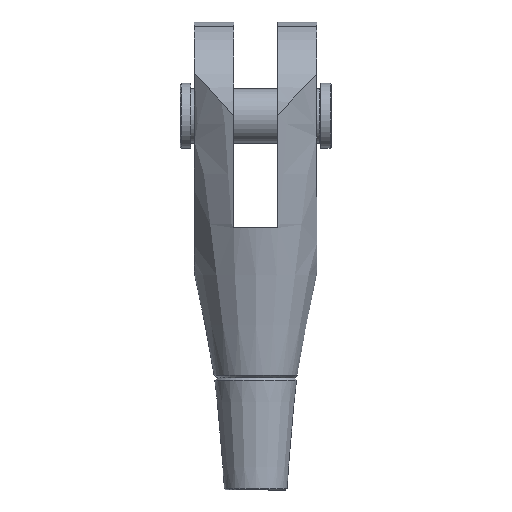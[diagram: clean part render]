
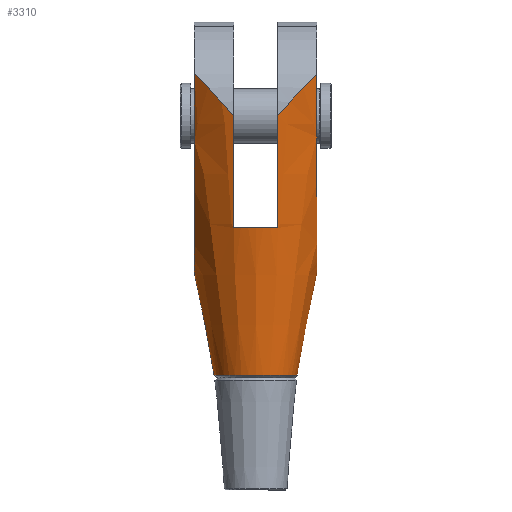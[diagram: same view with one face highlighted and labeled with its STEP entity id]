
A CAD part, front view. The second image highlights one B-rep face of the part: STEP entity #3310.
In plain terms, the highlighted conical face has half-angle 11 degrees and reference radius 58.033 mm.
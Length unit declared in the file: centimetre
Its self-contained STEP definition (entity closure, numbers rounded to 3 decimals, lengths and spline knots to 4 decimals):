
#886=B_SPLINE_CURVE_WITH_KNOTS('',3,(#4490,#4491,#4492,#4493,#4494,#4495,
#4496,#4497,#4498,#4499),.UNSPECIFIED.,.F.,.F.,(4,2,2,2,4),(21.8846,
22.8765,24.7064,25.6214,26.5134),
 .UNSPECIFIED.);
#887=B_SPLINE_CURVE_WITH_KNOTS('',3,(#4511,#4512,#4513,#4514,#4515,#4516,
#4517,#4518,#4519,#4520),.UNSPECIFIED.,.F.,.F.,(4,2,2,2,4),(70.6099,
71.5019,72.4169,74.2468,75.2386),
 .UNSPECIFIED.);
#888=B_SPLINE_CURVE_WITH_KNOTS('',3,(#4526,#4527,#4528,#4529,#4530,#4531,
#4532,#4533,#4534,#4535),.UNSPECIFIED.,.F.,.F.,(4,2,2,2,4),(70.4463,
71.4381,73.268,74.183,75.075),
 .UNSPECIFIED.);
#889=B_SPLINE_CURVE_WITH_KNOTS('',3,(#4546,#4547,#4548,#4549,#4550,#4551,
#4552,#4553,#4554,#4555),.UNSPECIFIED.,.F.,.F.,(4,2,2,2,4),(22.0483,
22.9402,23.8552,25.6852,26.677),
 .UNSPECIFIED.);
#932=(
BOUNDED_CURVE()
B_SPLINE_CURVE(2,(#4486,#4487,#4488),.UNSPECIFIED.,.F.,.F.)
B_SPLINE_CURVE_WITH_KNOTS((3,3),(1.6632,39.4666),
 .UNSPECIFIED.)
CURVE()
GEOMETRIC_REPRESENTATION_ITEM()
RATIONAL_B_SPLINE_CURVE((1.062,1.737,1.062))
REPRESENTATION_ITEM('')
);
#933=(
BOUNDED_CURVE()
B_SPLINE_CURVE(2,(#4501,#4502,#4503),.UNSPECIFIED.,.F.,.F.)
B_SPLINE_CURVE_WITH_KNOTS((3,3),(6.3954,16.1157),
 .UNSPECIFIED.)
CURVE()
GEOMETRIC_REPRESENTATION_ITEM()
RATIONAL_B_SPLINE_CURVE((1.013,1.017,1.))
REPRESENTATION_ITEM('')
);
#934=(
BOUNDED_CURVE()
B_SPLINE_CURVE(2,(#4507,#4508,#4509),.UNSPECIFIED.,.F.,.F.)
B_SPLINE_CURVE_WITH_KNOTS((3,3),(0.,9.7203),.UNSPECIFIED.)
CURVE()
GEOMETRIC_REPRESENTATION_ITEM()
RATIONAL_B_SPLINE_CURVE((1.,1.017,1.013))
REPRESENTATION_ITEM('')
);
#935=(
BOUNDED_CURVE()
B_SPLINE_CURVE(2,(#4522,#4523,#4524),.UNSPECIFIED.,.F.,.F.)
B_SPLINE_CURVE_WITH_KNOTS((3,3),(1.6632,39.4666),
 .UNSPECIFIED.)
CURVE()
GEOMETRIC_REPRESENTATION_ITEM()
RATIONAL_B_SPLINE_CURVE((1.062,1.737,1.062))
REPRESENTATION_ITEM('')
);
#936=(
BOUNDED_CURVE()
B_SPLINE_CURVE(2,(#4537,#4538,#4539),.UNSPECIFIED.,.F.,.F.)
B_SPLINE_CURVE_WITH_KNOTS((3,3),(6.3954,16.1157),
 .UNSPECIFIED.)
CURVE()
GEOMETRIC_REPRESENTATION_ITEM()
RATIONAL_B_SPLINE_CURVE((1.013,1.017,1.))
REPRESENTATION_ITEM('')
);
#937=(
BOUNDED_CURVE()
B_SPLINE_CURVE(2,(#4543,#4544,#4545),.UNSPECIFIED.,.F.,.F.)
B_SPLINE_CURVE_WITH_KNOTS((3,3),(0.,9.7203),.UNSPECIFIED.)
CURVE()
GEOMETRIC_REPRESENTATION_ITEM()
RATIONAL_B_SPLINE_CURVE((1.,1.017,1.013))
REPRESENTATION_ITEM('')
);
#945=FACE_BOUND('',#1177,.T.);
#989=FACE_OUTER_BOUND('',#1176,.T.);
#1176=EDGE_LOOP('',(#2210,#2211,#2212,#2213,#2214,#2215,#2216,#2217,#2218,
#2219,#2220,#2221));
#1177=EDGE_LOOP('',(#2222));
#1405=CIRCLE('',#3502,3.1882);
#1406=CIRCLE('',#3504,5.3854);
#1407=CIRCLE('',#3505,5.3854);
#1449=VERTEX_POINT('',#4481);
#1450=VERTEX_POINT('',#4484);
#1451=VERTEX_POINT('',#4485);
#1452=VERTEX_POINT('',#4489);
#1453=VERTEX_POINT('',#4500);
#1454=VERTEX_POINT('',#4504);
#1455=VERTEX_POINT('',#4506);
#1456=VERTEX_POINT('',#4510);
#1457=VERTEX_POINT('',#4521);
#1458=VERTEX_POINT('',#4525);
#1459=VERTEX_POINT('',#4536);
#1460=VERTEX_POINT('',#4540);
#1461=VERTEX_POINT('',#4542);
#1759=EDGE_CURVE('',#1449,#1449,#1405,.T.);
#1760=EDGE_CURVE('',#1450,#1451,#932,.T.);
#1761=EDGE_CURVE('',#1451,#1452,#886,.T.);
#1762=EDGE_CURVE('',#1452,#1453,#933,.T.);
#1763=EDGE_CURVE('',#1453,#1454,#1406,.T.);
#1764=EDGE_CURVE('',#1454,#1455,#934,.T.);
#1765=EDGE_CURVE('',#1455,#1456,#887,.T.);
#1766=EDGE_CURVE('',#1456,#1457,#935,.T.);
#1767=EDGE_CURVE('',#1457,#1458,#888,.T.);
#1768=EDGE_CURVE('',#1458,#1459,#936,.T.);
#1769=EDGE_CURVE('',#1459,#1460,#1407,.T.);
#1770=EDGE_CURVE('',#1460,#1461,#937,.T.);
#1771=EDGE_CURVE('',#1461,#1450,#889,.T.);
#2210=ORIENTED_EDGE('',*,*,#1760,.T.);
#2211=ORIENTED_EDGE('',*,*,#1761,.T.);
#2212=ORIENTED_EDGE('',*,*,#1762,.T.);
#2213=ORIENTED_EDGE('',*,*,#1763,.T.);
#2214=ORIENTED_EDGE('',*,*,#1764,.T.);
#2215=ORIENTED_EDGE('',*,*,#1765,.T.);
#2216=ORIENTED_EDGE('',*,*,#1766,.T.);
#2217=ORIENTED_EDGE('',*,*,#1767,.T.);
#2218=ORIENTED_EDGE('',*,*,#1768,.T.);
#2219=ORIENTED_EDGE('',*,*,#1769,.T.);
#2220=ORIENTED_EDGE('',*,*,#1770,.T.);
#2221=ORIENTED_EDGE('',*,*,#1771,.T.);
#2222=ORIENTED_EDGE('',*,*,#1759,.F.);
#3109=CONICAL_SURFACE('',#3503,5.8033,11.);
#3310=ADVANCED_FACE('',(#989,#945),#3109,.T.);
#3502=AXIS2_PLACEMENT_3D('',#4482,#3715,#3716);
#3503=AXIS2_PLACEMENT_3D('',#4483,#3717,#3718);
#3504=AXIS2_PLACEMENT_3D('',#4505,#3719,#3720);
#3505=AXIS2_PLACEMENT_3D('',#4541,#3721,#3722);
#3715=DIRECTION('center_axis',(0.,0.,-1.));
#3716=DIRECTION('ref_axis',(0.,1.,0.));
#3717=DIRECTION('center_axis',(0.,0.,
1.));
#3718=DIRECTION('ref_axis',(0.,-1.,0.));
#3719=DIRECTION('center_axis',(0.,0.,
-1.));
#3720=DIRECTION('ref_axis',(0.,-1.,0.));
#3721=DIRECTION('center_axis',(0.,0.,
-1.));
#3722=DIRECTION('ref_axis',(0.,-1.,0.));
#4481=CARTESIAN_POINT('',(0.,-3.1882,-19.9037));
#4482=CARTESIAN_POINT('Origin',(0.,0.,
-19.9037));
#4483=CARTESIAN_POINT('Origin',(0.,0.,
-6.45));
#4484=CARTESIAN_POINT('',(-4.7,-6.0842,3.2468));
#4485=CARTESIAN_POINT('',(-4.7,6.0842,3.2468));
#4486=CARTESIAN_POINT('Ctrl Pts',(-4.7,-6.0842,3.2468));
#4487=CARTESIAN_POINT('Ctrl Pts',(-4.7,0.,
-21.5238));
#4488=CARTESIAN_POINT('Ctrl Pts',(-4.7,6.0842,3.2468));
#4489=CARTESIAN_POINT('',(-1.7,6.8492,0.));
#4490=CARTESIAN_POINT('Ctrl Pts',(-4.7,6.0842,3.2468));
#4491=CARTESIAN_POINT('Ctrl Pts',(-4.4803,6.1979,3.0189));
#4492=CARTESIAN_POINT('Ctrl Pts',(-4.2563,6.2991,2.786));
#4493=CARTESIAN_POINT('Ctrl Pts',(-3.6156,6.5497,2.1169));
#4494=CARTESIAN_POINT('Ctrl Pts',(-3.1958,6.6671,1.6757));
#4495=CARTESIAN_POINT('Ctrl Pts',(-2.5959,6.7796,1.0278));
#4496=CARTESIAN_POINT('Ctrl Pts',(-2.402,6.8064,0.8154));
#4497=CARTESIAN_POINT('Ctrl Pts',(-2.0353,6.841,0.4018));
#4498=CARTESIAN_POINT('Ctrl Pts',(-1.8619,6.8492,0.2007));
#4499=CARTESIAN_POINT('Ctrl Pts',(-1.7,6.8492,0.));
#4500=CARTESIAN_POINT('',(-1.7,5.11,-8.6));
#4501=CARTESIAN_POINT('Ctrl Pts',(-1.7,6.8492,0.));
#4502=CARTESIAN_POINT('Ctrl Pts',(-1.7,5.8628,-4.9253));
#4503=CARTESIAN_POINT('Ctrl Pts',(-1.7,5.11,-8.6));
#4504=CARTESIAN_POINT('',(1.7,5.11,-8.6));
#4505=CARTESIAN_POINT('Origin',(0.,0.,
-8.6));
#4506=CARTESIAN_POINT('',(1.7,6.8492,0.));
#4507=CARTESIAN_POINT('Ctrl Pts',(1.7,5.11,-8.6));
#4508=CARTESIAN_POINT('Ctrl Pts',(1.7,5.8628,-4.9253));
#4509=CARTESIAN_POINT('Ctrl Pts',(1.7,6.8492,0.));
#4510=CARTESIAN_POINT('',(4.7,6.0842,3.2468));
#4511=CARTESIAN_POINT('Ctrl Pts',(1.7,6.8492,0.));
#4512=CARTESIAN_POINT('Ctrl Pts',(1.8619,6.8492,0.2007));
#4513=CARTESIAN_POINT('Ctrl Pts',(2.0353,6.841,0.4018));
#4514=CARTESIAN_POINT('Ctrl Pts',(2.402,6.8064,0.8154));
#4515=CARTESIAN_POINT('Ctrl Pts',(2.5959,6.7796,1.0278));
#4516=CARTESIAN_POINT('Ctrl Pts',(3.1958,6.6671,1.6757));
#4517=CARTESIAN_POINT('Ctrl Pts',(3.6156,6.5497,2.1169));
#4518=CARTESIAN_POINT('Ctrl Pts',(4.2563,6.2991,2.786));
#4519=CARTESIAN_POINT('Ctrl Pts',(4.4803,6.1979,3.0189));
#4520=CARTESIAN_POINT('Ctrl Pts',(4.7,6.0842,3.2468));
#4521=CARTESIAN_POINT('',(4.7,-6.0842,3.2468));
#4522=CARTESIAN_POINT('Ctrl Pts',(4.7,6.0842,3.2468));
#4523=CARTESIAN_POINT('Ctrl Pts',(4.7,0.,
-21.5238));
#4524=CARTESIAN_POINT('Ctrl Pts',(4.7,-6.0842,3.2468));
#4525=CARTESIAN_POINT('',(1.7,-6.8492,0.));
#4526=CARTESIAN_POINT('Ctrl Pts',(4.7,-6.0842,3.2468));
#4527=CARTESIAN_POINT('Ctrl Pts',(4.4803,-6.1979,3.0189));
#4528=CARTESIAN_POINT('Ctrl Pts',(4.2563,-6.2991,2.786));
#4529=CARTESIAN_POINT('Ctrl Pts',(3.6156,-6.5497,2.1169));
#4530=CARTESIAN_POINT('Ctrl Pts',(3.1958,-6.6671,1.6757));
#4531=CARTESIAN_POINT('Ctrl Pts',(2.5959,-6.7796,1.0278));
#4532=CARTESIAN_POINT('Ctrl Pts',(2.402,-6.8064,0.8154));
#4533=CARTESIAN_POINT('Ctrl Pts',(2.0353,-6.841,0.4018));
#4534=CARTESIAN_POINT('Ctrl Pts',(1.8619,-6.8492,0.2007));
#4535=CARTESIAN_POINT('Ctrl Pts',(1.7,-6.8492,0.));
#4536=CARTESIAN_POINT('',(1.7,-5.11,-8.6));
#4537=CARTESIAN_POINT('Ctrl Pts',(1.7,-6.8492,0.));
#4538=CARTESIAN_POINT('Ctrl Pts',(1.7,-5.8628,-4.9253));
#4539=CARTESIAN_POINT('Ctrl Pts',(1.7,-5.11,-8.6));
#4540=CARTESIAN_POINT('',(-1.7,-5.11,-8.6));
#4541=CARTESIAN_POINT('Origin',(0.,0.,
-8.6));
#4542=CARTESIAN_POINT('',(-1.7,-6.8492,0.));
#4543=CARTESIAN_POINT('Ctrl Pts',(-1.7,-5.11,-8.6));
#4544=CARTESIAN_POINT('Ctrl Pts',(-1.7,-5.8628,-4.9253));
#4545=CARTESIAN_POINT('Ctrl Pts',(-1.7,-6.8492,0.));
#4546=CARTESIAN_POINT('Ctrl Pts',(-1.7,-6.8492,0.));
#4547=CARTESIAN_POINT('Ctrl Pts',(-1.8619,-6.8492,0.2007));
#4548=CARTESIAN_POINT('Ctrl Pts',(-2.0353,-6.841,0.4018));
#4549=CARTESIAN_POINT('Ctrl Pts',(-2.402,-6.8064,0.8154));
#4550=CARTESIAN_POINT('Ctrl Pts',(-2.5959,-6.7796,1.0278));
#4551=CARTESIAN_POINT('Ctrl Pts',(-3.1958,-6.6671,1.6757));
#4552=CARTESIAN_POINT('Ctrl Pts',(-3.6156,-6.5497,2.1169));
#4553=CARTESIAN_POINT('Ctrl Pts',(-4.2563,-6.2991,2.786));
#4554=CARTESIAN_POINT('Ctrl Pts',(-4.4803,-6.1979,3.0189));
#4555=CARTESIAN_POINT('Ctrl Pts',(-4.7,-6.0842,3.2468));
